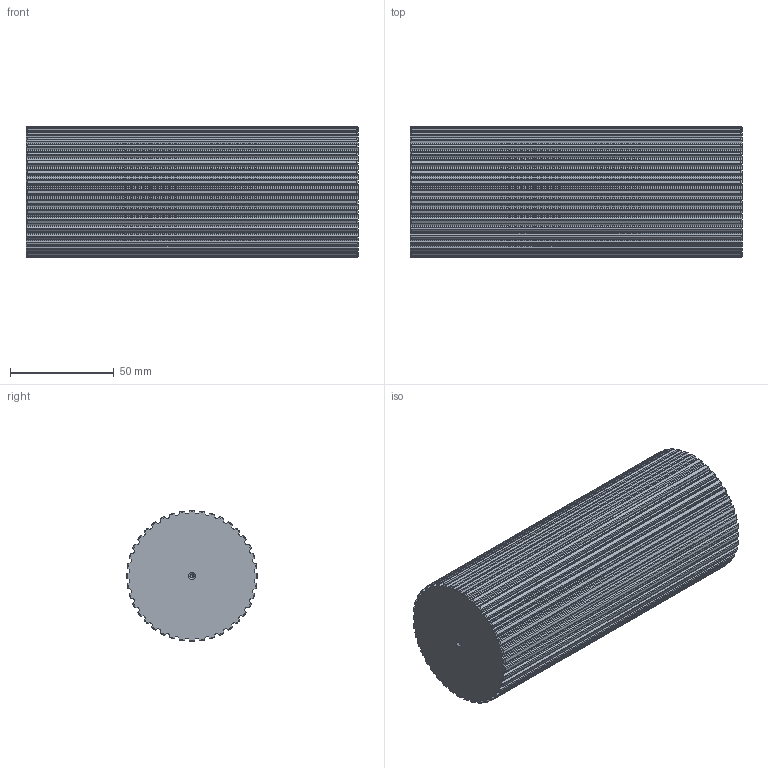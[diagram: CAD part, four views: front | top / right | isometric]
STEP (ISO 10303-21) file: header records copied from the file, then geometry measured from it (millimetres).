
FILE_DESCRIPTION(('STEP AP203'),'1');
FILE_NAME('bart_40.stp','2022-04-21T07:17:52',('TraceParts'),('TraceParts S.A.'),'Spatial InterOp 3D',' ',' ');
FILE_SCHEMA(('CONFIG_CONTROL_DESIGN'));
Length unit declared in the file: millimetre
Products named in the file (1): 1
Bounding box: 160 x 63.16 x 63.16 mm (x, y, z)
Volume: 482324 mm3; surface area: 46718.9 mm2
Topology: 1 solids, 1 shells, 418 faces, 1240 edges, 822 vertices
Faces by surface type: cylinder 244, cone 92, plane 82
Entity records: 15076 total; most frequent: CARTESIAN_POINT 4237, ORIENTED_EDGE 2472, DIRECTION 2174, EDGE_CURVE 1236, AXIS2_PLACEMENT_3D 839, VERTEX_POINT 822, LINE 496, VECTOR 496
